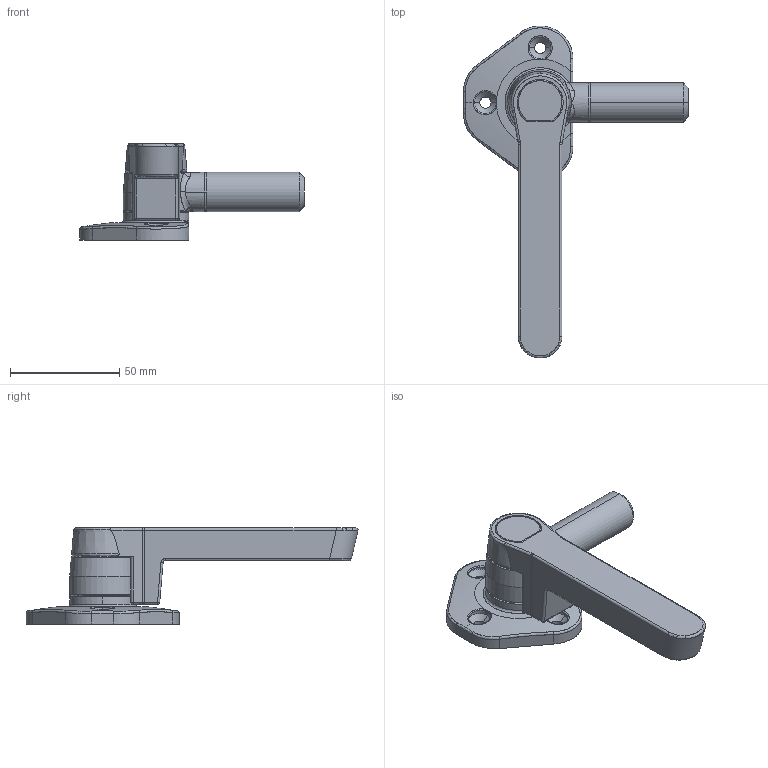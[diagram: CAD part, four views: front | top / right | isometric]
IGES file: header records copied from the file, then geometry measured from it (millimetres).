
Start section: SolidWorks IGES file using analytic representation for surfaces
Bounding box: 102.8 x 151.71 x 44 mm (x, y, z)
Surface area: 27559 mm2 (no closed solid volume)
Topology: 0 solids, 0 shells, 253 faces, 3169 edges, 3158 vertices
Faces by surface type: revolution 130, bspline 123
